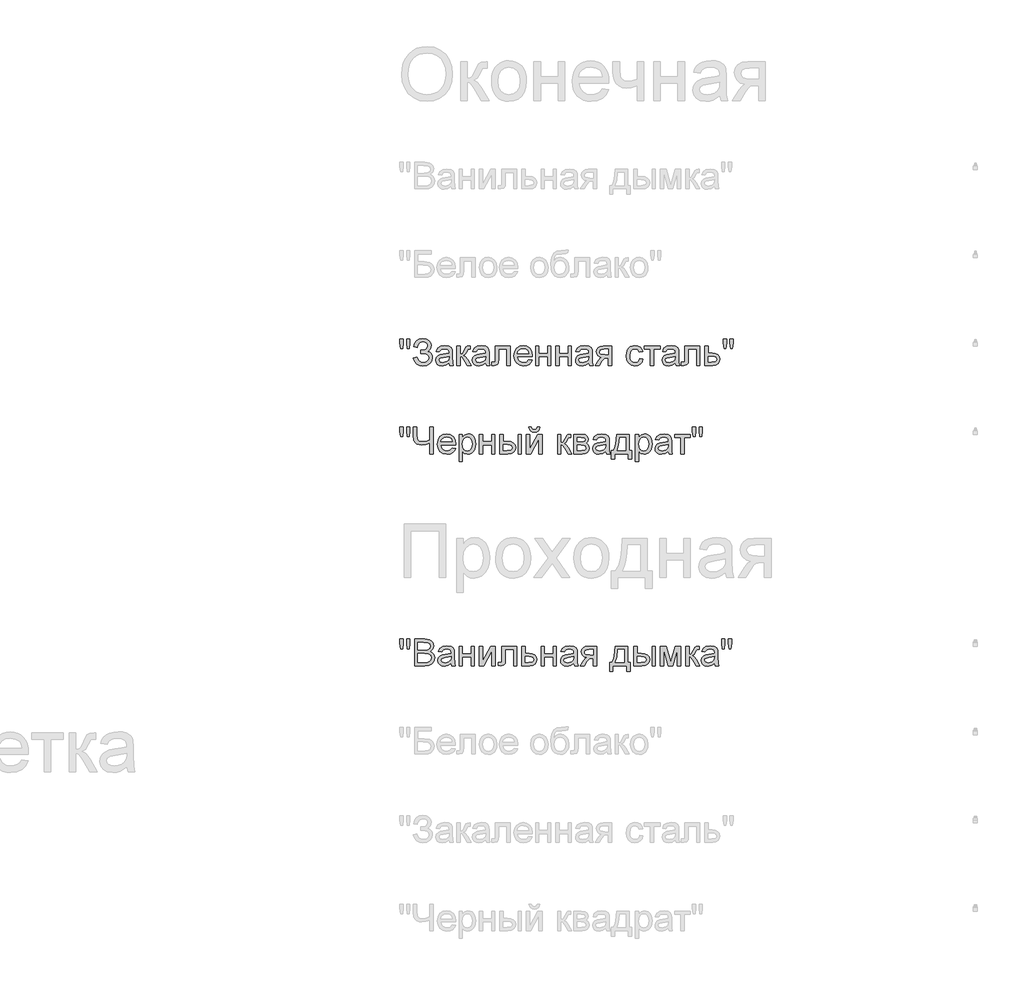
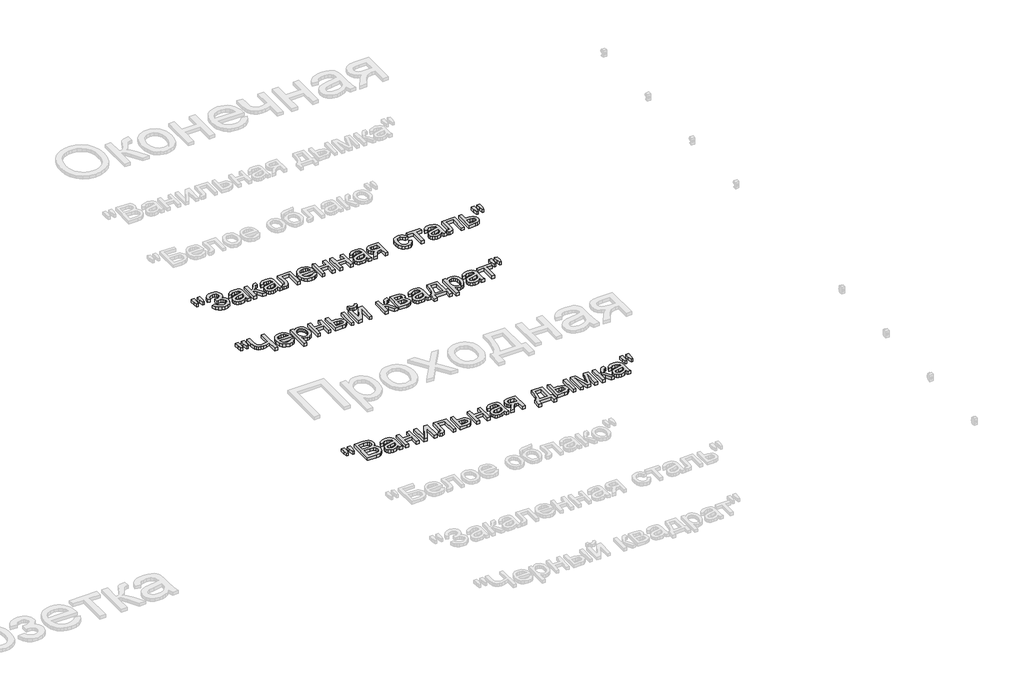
# One storey, part 24 of 168: 3 proxies.
"""IFC4 building model written with IfcOpenShell, lengths in millimetres."""

from ifc_helpers import new_model, si_unit, origin, origin_with_axes, place, context, project, spatial, polyline, outline, extrude, element, save

model = new_model("IFC4")

# Units and contexts
model_context = context("Model", 3, world=origin())
ifc_project = project(units=[si_unit("LENGTHUNIT", "METRE", prefix="MILLI")], contexts=[model_context])

# Site, building, storey
site = spatial("IfcSite", under=ifc_project)
building = spatial("IfcBuilding", under=site)
storey = spatial("IfcBuildingStorey", under=building, Name="Этаж 01", Elevation=0.0)

# Proxies
placement = place(None, origin())
element("IfcBuildingElementProxy", 1, Name="150", ObjectType="150", at=placement, inside=storey, context=model_context, shape_type="SweptSolid", body=[
    extrude(outline(polyline([(54389.7772739, -52170.3300622), (54385.178749, -52141.2305964), (54385.178749, -52116.1778325), (54404.0143071, -52116.1778325), (54404.0143071, -52141.2305964), (54399.8940288, -52170.3300622), (54389.7772739, -52170.3300622)])), origin_with_axes(), (0.0, 0.0, 1.0), 20.0),
    extrude(outline(polyline([(54427.3380256, -52170.3300622), (54422.8498653, -52141.2305964), (54422.8498653, -52116.1778325), (54441.6854234, -52116.1778325), (54441.6854234, -52141.2305964), (54437.2708395, -52170.3300622), (54427.3380256, -52170.3300622)])), origin_with_axes(), (0.0, 0.0, 1.0), 20.0),
    extrude(outline(polyline([(54460.5209816, -52224.4822919), (54479.3565398, -52219.7734024), (54490.9264285, -52240.172459), (54501.8571223, -52247.829003), (54515.8504337, -52250.3811843), (54530.0276861, -52248.4635995), (54540.8480152, -52242.7108448), (54547.7044159, -52234.2449603), (54549.9898828, -52224.1879863), (54547.4928838, -52213.6527657), (54540.0018867, -52205.517975), (54528.2066702, -52200.3170433), (54512.7970131, -52198.5833994), (54502.9009874, -52198.5833994), (54502.9009874, -52179.7478413), (54524.2197491, -52178.221131), (54537.2611658, -52170.4220327), (54542.9265485, -52156.1666054), (54541.0411533, -52147.2960508), (54535.3849676, -52139.6670979), (54526.5098145, -52134.4109839), (54514.9675169, -52132.6589459), (54495.7456826, -52138.0484171), (54484.746011, -52152.3406326), (54481.7109845, -52165.6211727), (54462.8754264, -52160.9122831), (54468.7270494, -52140.3108914), (54479.3289486, -52125.5956116), (54494.6811241, -52116.7664437), (54514.7835759, -52113.8233877), (54534.1755556, -52116.8814068), (54549.0885719, -52126.0554641), (54558.593723, -52139.3222085), (54561.7621067, -52154.6582892), (54556.8324879, -52173.3007093), (54542.0436317, -52187.2158458), (54552.5190715, -52192.0396984), (54561.1367073, -52200.1836861), (54566.9032576, -52210.948833), (54568.825441, -52223.6361633), (54565.137424, -52241.4738415), (54554.073373, -52256.1385376), (54536.9208749, -52265.9471913), (54514.9675169, -52269.2167425), (54495.8652443, -52266.4208393), (54480.4233975, -52258.0331298), (54468.6419766, -52244.053614), (54460.5209816, -52224.4822919)])), origin_with_axes(), (0.0, 0.0, 1.0), 20.0),
    extrude(outline(polyline([(54663.0032317, -52252.7356291), (54644.7378907, -52265.5011344), (54624.5595633, -52269.2167425), (54608.8188124, -52266.9818594), (54597.2075369, -52260.27721), (54590.0476336, -52250.0960758), (54587.6609991, -52237.4317381), (54591.2662427, -52222.5325173), (54600.7392041, -52211.7167867), (54613.9277736, -52205.5363691), (54630.224946, -52202.7036778), (54662.8928671, -52196.2289547), (54663.0032317, -52192.0350999), (54661.7064477, -52183.6289963), (54657.8160956, -52178.1291605), (54649.1156864, -52174.0456704), (54636.9939747, -52172.684507), (54617.9376873, -52176.3081446), (54608.8510021, -52189.1656204), (54590.0154439, -52186.8111756), (54598.1640301, -52168.4170758), (54614.5715671, -52157.6381334), (54639.4219959, -52153.8489488), (54662.2490737, -52157.196675), (54675.1433376, -52165.6027786), (54680.9190849, -52178.3866779), (54681.8387899, -52194.8677913), (54681.8387899, -52218.3018744), (54682.7952831, -52251.0249778), (54686.5476794, -52266.8622977), (54667.7121213, -52266.8622977), (54663.0032317, -52252.7356291)]), holes=[polyline([(54663.0032317, -52215.0645128), (54632.6161789, -52220.8402601), (54616.4109771, -52223.8936807), (54609.0717313, -52228.8600876), (54606.4965573, -52236.1073629), (54612.1067577, -52246.2976942), (54628.569477, -52250.3811843), (54647.6257643, -52245.8746299), (54659.913023, -52234.9669288), (54662.8928671, -52220.3988017), (54663.0032317, -52215.0645128)])]), origin_with_axes(), (0.0, 0.0, 1.0), 20.0),
    extrude(outline(polyline([(54707.7376824, -52156.2033936), (54726.5732405, -52156.2033936), (54726.5732405, -52203.292289), (54739.1915929, -52199.9077746), (54749.529077, -52180.1892997), (54758.1191216, -52163.1747574), (54765.6974907, -52157.6381334), (54779.4746714, -52156.2033936), (54783.079915, -52156.2033936), (54783.079915, -52175.1493163), (54778.0031434, -52175.0389517), (54768.8060936, -52177.0255145), (54762.3313704, -52189.4231377), (54754.7346072, -52202.8324365), (54744.0844235, -52209.3991301), (54755.9670119, -52216.7291788), (54767.6288712, -52232.1710256), (54787.7888045, -52266.8622977), (54766.3780724, -52266.8622977), (54746.6228092, -52232.9067896), (54736.6899954, -52218.5409977), (54726.5732405, -52215.0645128), (54726.5732405, -52266.8622977), (54707.7376824, -52266.8622977), (54707.7376824, -52156.2033936)])), origin_with_axes(), (0.0, 0.0, 1.0), 20.0),
    extrude(outline(polyline([(54870.1943714, -52252.7356291), (54851.9290304, -52265.5011344), (54831.7507029, -52269.2167425), (54816.0099521, -52266.9818594), (54804.3986766, -52260.27721), (54797.2387733, -52250.0960758), (54794.8521388, -52237.4317381), (54798.4573824, -52222.5325173), (54807.9303437, -52211.7167867), (54821.1189133, -52205.5363691), (54837.4160857, -52202.7036778), (54870.0840068, -52196.2289547), (54870.1943714, -52192.0350999), (54868.8975874, -52183.6289963), (54865.0072353, -52178.1291605), (54856.3068261, -52174.0456704), (54844.1851144, -52172.684507), (54825.128827, -52176.3081446), (54816.0421417, -52189.1656204), (54797.2065836, -52186.8111756), (54805.3551698, -52168.4170758), (54821.7627068, -52157.6381334), (54846.6131355, -52153.8489488), (54869.4402133, -52157.196675), (54882.3344773, -52165.6027786), (54888.1102246, -52178.3866779), (54889.0299296, -52194.8677913), (54889.0299296, -52218.3018744), (54889.9864228, -52251.0249778), (54893.7388191, -52266.8622977), (54874.903261, -52266.8622977), (54870.1943714, -52252.7356291)]), holes=[polyline([(54870.1943714, -52215.0645128), (54839.8073186, -52220.8402601), (54823.6021167, -52223.8936807), (54816.2628709, -52228.8600876), (54813.687697, -52236.1073629), (54819.2978974, -52246.2976942), (54835.7606167, -52250.3811843), (54854.816904, -52245.8746299), (54867.1041627, -52234.9669288), (54870.0840068, -52220.3988017), (54870.1943714, -52215.0645128)])]), origin_with_axes(), (0.0, 0.0, 1.0), 20.0),
    extrude(outline(polyline([(54924.3466011, -52156.2033936), (55009.1066128, -52156.2033936), (55009.1066128, -52266.7519331), (54990.2710547, -52266.7519331), (54990.2710547, -52175.0389517), (54943.1821593, -52175.0389517), (54943.1821593, -52227.830018), (54941.9129664, -52252.1838061), (54934.9416026, -52262.4661079), (54918.4604892, -52266.8622977), (54903.1565982, -52265.9058045), (54903.1565982, -52248.0267396), (54911.5810959, -52248.0267396), (54920.0975641, -52246.8679113), (54923.5004725, -52243.1890913), (54924.3466011, -52226.7631603), (54924.3466011, -52156.2033936)])), origin_with_axes(), (0.0, 0.0, 1.0), 20.0),
    extrude(outline(polyline([(55114.8358982, -52233.900071), (55133.3035744, -52236.2545157), (55126.6495088, -52250.1696522), (55116.0315147, -52260.5715156), (55101.6887154, -52267.0554358), (55083.8602342, -52269.2167425), (55061.7597234, -52265.4873388), (55044.7543781, -52254.2991276), (55033.9110563, -52236.3786759), (55030.2966157, -52212.4525506), (55033.9478445, -52187.7216835), (55044.9015309, -52169.2264162), (55061.6769499, -52157.6933157), (55082.7933764, -52153.8489488), (55103.2522139, -52157.6841186), (55119.5999701, -52169.189628), (55130.3191317, -52187.6481071), (55133.8921856, -52212.342186), (55133.781821, -52217.4189576), (55049.1321739, -52217.4189576), (55052.3925281, -52231.518035), (55059.9662986, -52241.8831103), (55070.8969924, -52248.2566658), (55084.2281162, -52250.3811843), (55102.6957924, -52246.444847), (55114.8358982, -52233.900071)]), holes=[polyline([(55049.1321739, -52198.5833994), (55115.0566274, -52198.5833994), (55112.5090446, -52188.6321915), (55107.5150465, -52181.5136749), (55096.533769, -52174.8917989), (55082.7198, -52172.684507), (55070.0232727, -52174.445742), (55059.5248402, -52179.7294472), (55052.2269812, -52187.9654053), (55049.1321739, -52198.5833994)])]), origin_with_axes(), (0.0, 0.0, 1.0), 20.0),
    extrude(outline(polyline([(55152.7277437, -52156.2033936), (55171.5633019, -52156.2033936), (55171.5633019, -52198.5833994), (55221.006642, -52198.5833994), (55221.006642, -52156.2033936), (55239.8422002, -52156.2033936), (55239.8422002, -52266.8622977), (55221.006642, -52266.8622977), (55221.006642, -52217.4189576), (55171.5633019, -52217.4189576), (55171.5633019, -52266.8622977), (55152.7277437, -52266.8622977), (55152.7277437, -52156.2033936)])), origin_with_axes(), (0.0, 0.0, 1.0), 20.0),
    extrude(outline(polyline([(55268.0955374, -52156.2033936), (55286.9310956, -52156.2033936), (55286.9310956, -52198.5833994), (55336.3744357, -52198.5833994), (55336.3744357, -52156.2033936), (55355.2099939, -52156.2033936), (55355.2099939, -52266.8622977), (55336.3744357, -52266.8622977), (55336.3744357, -52217.4189576), (55286.9310956, -52217.4189576), (55286.9310956, -52266.8622977), (55268.0955374, -52266.8622977), (55268.0955374, -52156.2033936)])), origin_with_axes(), (0.0, 0.0, 1.0), 20.0),
    extrude(outline(polyline([(55454.0966742, -52252.7356291), (55435.8313331, -52265.5011344), (55415.6530057, -52269.2167425), (55399.9122548, -52266.9818594), (55388.3009793, -52260.27721), (55381.141076, -52250.0960758), (55378.7544416, -52237.4317381), (55382.3596851, -52222.5325173), (55391.8326465, -52211.7167867), (55405.021216, -52205.5363691), (55421.3183884, -52202.7036778), (55453.9863096, -52196.2289547), (55454.0966742, -52192.0350999), (55452.7998901, -52183.6289963), (55448.909538, -52178.1291605), (55440.2091289, -52174.0456704), (55428.0874171, -52172.684507), (55409.0311298, -52176.3081446), (55399.9444445, -52189.1656204), (55381.1088863, -52186.8111756), (55389.2574725, -52168.4170758), (55405.6650095, -52157.6381334), (55430.5154383, -52153.8489488), (55453.3425161, -52157.196675), (55466.23678, -52165.6027786), (55472.0125273, -52178.3866779), (55472.9322323, -52194.8677913), (55472.9322323, -52218.3018744), (55473.8887255, -52251.0249778), (55477.6411219, -52266.8622977), (55458.8055637, -52266.8622977), (55454.0966742, -52252.7356291)]), holes=[polyline([(55454.0966742, -52215.0645128), (55423.7096214, -52220.8402601), (55407.5044195, -52223.8936807), (55400.1651737, -52228.8600876), (55397.5899997, -52236.1073629), (55403.2002001, -52246.2976942), (55419.6629194, -52250.3811843), (55438.7192068, -52245.8746299), (55451.0064654, -52234.9669288), (55453.9863096, -52220.3988017), (55454.0966742, -52215.0645128)])]), origin_with_axes(), (0.0, 0.0, 1.0), 20.0),
    extrude(outline(polyline([(55583.5911365, -52156.2033936), (55583.5911365, -52266.8622977), (55564.7555783, -52266.8622977), (55564.7555783, -52224.4822919), (55554.4916707, -52224.4822919), (55540.5121548, -52226.8735249), (55527.3787676, -52242.949968), (55512.3691822, -52266.8622977), (55490.5905681, -52266.8622977), (55509.4997026, -52236.6223977), (55517.8506239, -52225.7698789), (55525.5393576, -52220.9506247), (55512.6634878, -52217.0050903), (55503.6135907, -52209.5094947), (55498.2609077, -52199.5398926), (55496.47668, -52188.172339), (55498.9138982, -52175.278075), (55506.2255529, -52165.0693497), (55518.1541266, -52158.4198826), (55534.4421019, -52156.2033936), (55583.5911365, -52156.2033936)]), holes=[polyline([(55564.7555783, -52175.0389517), (55539.9235436, -52175.0389517), (55527.0982576, -52176.1288021), (55519.8187926, -52179.3983534), (55515.3122382, -52189.6070787), (55516.9723057, -52196.7853762), (55521.9525082, -52201.7655787), (55545.4785618, -52205.6467337), (55564.7555783, -52205.6467337), (55564.7555783, -52175.0389517)])]), origin_with_axes(), (0.0, 0.0, 1.0), 20.0),
    extrude(outline(polyline([(55741.338936, -52226.8367367), (55760.1744942, -52229.1911814), (55754.9229787, -52245.9436078), (55745.0545442, -52258.6033469), (55731.4980926, -52266.5633936), (55715.1825262, -52269.2167425), (55695.146753, -52265.5149299), (55679.4795785, -52254.4094922), (55669.3674222, -52236.387873), (55665.9967034, -52211.9375159), (55667.4360417, -52195.1758924), (55671.7540566, -52180.6491522), (55679.019726, -52168.918315), (55689.3020278, -52160.5444011), (55701.603082, -52155.5228119), (55714.9250088, -52153.8489488), (55730.8405036, -52156.1482113), (55743.5646221, -52163.0459987), (55752.6926941, -52174.174429), (55757.8200494, -52189.1656204), (55738.9844912, -52191.5200651), (55730.2472939, -52177.4117906), (55715.0721616, -52172.684507), (55702.899866, -52175.0113606), (55693.2383651, -52181.9919214), (55686.9337874, -52194.0032686), (55684.8322615, -52211.4224811), (55686.8878022, -52229.0762183), (55693.0544241, -52241.1289522), (55702.5411811, -52248.0681263), (55714.5571268, -52250.3811843), (55724.3105982, -52248.9372475), (55732.307433, -52244.605437), (55738.1245671, -52237.2753883), (55741.338936, -52226.8367367)])), origin_with_axes(), (0.0, 0.0, 1.0), 20.0),
    extrude(outline(polyline([(55767.2378285, -52156.2033936), (55856.7067297, -52156.2033936), (55856.7067297, -52175.0389517), (55821.3900582, -52175.0389517), (55821.3900582, -52266.8622977), (55802.5545, -52266.8622977), (55802.5545, -52175.0389517), (55767.2378285, -52175.0389517), (55767.2378285, -52156.2033936)])), origin_with_axes(), (0.0, 0.0, 1.0), 20.0),
    extrude(outline(polyline([(55943.8211862, -52252.7356291), (55925.5558451, -52265.5011344), (55905.3775177, -52269.2167425), (55889.6367668, -52266.9818594), (55878.0254913, -52260.27721), (55870.865588, -52250.0960758), (55868.4789535, -52237.4317381), (55872.0841971, -52222.5325173), (55881.5571585, -52211.7167867), (55894.745728, -52205.5363691), (55911.0429004, -52202.7036778), (55943.7108216, -52196.2289547), (55943.8211862, -52192.0350999), (55942.5244021, -52183.6289963), (55938.63405, -52178.1291605), (55929.9336408, -52174.0456704), (55917.8119291, -52172.684507), (55898.7556417, -52176.3081446), (55889.6689565, -52189.1656204), (55870.8333983, -52186.8111756), (55878.9819845, -52168.4170758), (55895.3895215, -52157.6381334), (55920.2399503, -52153.8489488), (55943.0670281, -52157.196675), (55955.961292, -52165.6027786), (55961.7370393, -52178.3866779), (55962.6567443, -52194.8677913), (55962.6567443, -52218.3018744), (55963.6132375, -52251.0249778), (55967.3656338, -52266.8622977), (55948.5300757, -52266.8622977), (55943.8211862, -52252.7356291)]), holes=[polyline([(55943.8211862, -52215.0645128), (55913.4341334, -52220.8402601), (55897.2289315, -52223.8936807), (55889.8896857, -52228.8600876), (55887.3145117, -52236.1073629), (55892.9247121, -52246.2976942), (55909.3874314, -52250.3811843), (55928.4437188, -52245.8746299), (55940.7309774, -52234.9669288), (55943.7108216, -52220.3988017), (55943.8211862, -52215.0645128)])]), origin_with_axes(), (0.0, 0.0, 1.0), 20.0),
    extrude(outline(polyline([(55997.9734158, -52156.2033936), (56082.7334275, -52156.2033936), (56082.7334275, -52266.7519331), (56063.8978694, -52266.7519331), (56063.8978694, -52175.0389517), (56016.808974, -52175.0389517), (56016.808974, -52227.830018), (56015.5397811, -52252.1838061), (56008.5684173, -52262.4661079), (55992.0873039, -52266.8622977), (55976.7834129, -52265.9058045), (55976.7834129, -52248.0267396), (55985.2079106, -52248.0267396), (55993.7243788, -52246.8679113), (55997.1272873, -52243.1890913), (55997.9734158, -52226.7631603), (55997.9734158, -52156.2033936)])), origin_with_axes(), (0.0, 0.0, 1.0), 20.0),
    extrude(outline(polyline([(56110.9867648, -52156.2033936), (56129.8223229, -52156.2033936), (56129.8223229, -52196.2289547), (56151.5273606, -52196.2289547), (56170.3445247, -52198.587998), (56184.2688582, -52205.6651278), (56192.8772969, -52216.8901272), (56195.7467765, -52231.692779), (56193.3049597, -52245.1710556), (56185.9795095, -52256.5432078), (56173.2829821, -52264.2825252), (56154.727934, -52266.8622977), (56110.9867648, -52266.8622977), (56110.9867648, -52156.2033936)]), holes=[polyline([(56129.8223229, -52248.0267396), (56147.4070823, -52248.0267396), (56170.1237955, -52244.0720081), (56175.2143626, -52239.0090322), (56176.9112183, -52231.7295672), (56171.8896291, -52220.1412843), (56163.8192178, -52216.3337057), (56149.6511625, -52215.0645128), (56129.8223229, -52215.0645128), (56129.8223229, -52248.0267396)])]), origin_with_axes(), (0.0, 0.0, 1.0), 20.0),
    extrude(outline(polyline([(56219.1808595, -52170.3300622), (56214.5823346, -52141.2305964), (56214.5823346, -52116.1778325), (56233.4178928, -52116.1778325), (56233.4178928, -52141.2305964), (56229.2976144, -52170.3300622), (56219.1808595, -52170.3300622)])), origin_with_axes(), (0.0, 0.0, 1.0), 20.0),
    extrude(outline(polyline([(56256.7416113, -52170.3300622), (56252.2534509, -52141.2305964), (56252.2534509, -52116.1778325), (56271.0890091, -52116.1778325), (56271.0890091, -52141.2305964), (56266.6744251, -52170.3300622), (56256.7416113, -52170.3300622)])), origin_with_axes(), (0.0, 0.0, 1.0), 20.0),
])
element("IfcBuildingElementProxy", 2, Name="150", ObjectType="150", at=placement, inside=storey, context=model_context, shape_type="SweptSolid", body=[
    extrude(outline(polyline([(54389.7772739, -52670.3300622), (54385.178749, -52641.2305964), (54385.178749, -52616.1778325), (54404.0143071, -52616.1778325), (54404.0143071, -52641.2305964), (54399.8940288, -52670.3300622), (54389.7772739, -52670.3300622)])), origin_with_axes(), (0.0, 0.0, 1.0), 20.0),
    extrude(outline(polyline([(54427.3380256, -52670.3300622), (54422.8498653, -52641.2305964), (54422.8498653, -52616.1778325), (54441.6854234, -52616.1778325), (54441.6854234, -52641.2305964), (54437.2708395, -52670.3300622), (54427.3380256, -52670.3300622)])), origin_with_axes(), (0.0, 0.0, 1.0), 20.0),
    extrude(outline(polyline([(54573.5343305, -52766.8622977), (54554.6987724, -52766.8622977), (54554.6987724, -52706.5296505), (54529.7195849, -52714.6966308), (54508.0513354, -52717.4189576), (54493.3682452, -52715.556555), (54480.515368, -52709.9693472), (54470.554963, -52701.5172583), (54464.5492894, -52691.0602126), (54460.5209816, -52661.0594359), (54460.5209816, -52616.1778325), (54479.3565398, -52616.1778325), (54479.3565398, -52658.5210502), (54481.619014, -52678.8879171), (54488.4064368, -52690.8394834), (54498.3668419, -52696.6474204), (54510.1482628, -52698.5833994), (54531.8808916, -52696.2473488), (54554.6987724, -52689.2391968), (54554.6987724, -52616.1778325), (54573.5343305, -52616.1778325), (54573.5343305, -52766.8622977)])), origin_with_axes(), (0.0, 0.0, 1.0), 20.0),
    extrude(outline(polyline([(54681.6180607, -52733.900071), (54700.0857369, -52736.2545157), (54693.4316713, -52750.1696522), (54682.8136772, -52760.5715156), (54668.4708779, -52767.0554358), (54650.6423967, -52769.2167425), (54628.5418858, -52765.4873388), (54611.5365406, -52754.2991276), (54600.6932188, -52736.3786759), (54597.0787782, -52712.4525506), (54600.730007, -52687.7216835), (54611.6836934, -52669.2264162), (54628.4591124, -52657.6933157), (54649.5755389, -52653.8489488), (54670.0343764, -52657.6841186), (54686.3821325, -52669.189628), (54697.1012942, -52687.6481071), (54700.6743481, -52712.342186), (54700.5639835, -52717.4189576), (54615.9143364, -52717.4189576), (54619.1746905, -52731.518035), (54626.7484611, -52741.8831103), (54637.6791549, -52748.2566658), (54651.0102787, -52750.3811843), (54669.4779549, -52746.444847), (54681.6180607, -52733.900071)]), holes=[polyline([(54615.9143364, -52698.5833994), (54681.8387899, -52698.5833994), (54679.2912071, -52688.6321915), (54674.297209, -52681.5136749), (54663.3159314, -52674.8917989), (54649.5019625, -52672.684507), (54636.8054352, -52674.445742), (54626.3070027, -52679.7294472), (54619.0091436, -52687.9654053), (54615.9143364, -52698.5833994)])]), origin_with_axes(), (0.0, 0.0, 1.0), 20.0),
    extrude(outline(polyline([(54719.5099062, -52809.2423036), (54719.5099062, -52656.2033936), (54738.3454644, -52656.2033936), (54738.3454644, -52674.6710697), (54751.368487, -52659.054479), (54768.9532464, -52653.8489488), (54781.6911604, -52655.6699647), (54792.8287878, -52661.1330123), (54801.897079, -52669.9069979), (54808.4269844, -52681.6608277), (54813.687697, -52710.6867171), (54812.2023734, -52726.7953499), (54807.7464027, -52741.2025286), (54800.4623392, -52753.1770875), (54790.4927372, -52761.9878613), (54778.8814617, -52767.4095222), (54766.672378, -52769.2167425), (54750.2832351, -52764.3790943), (54738.3454644, -52752.1470179), (54738.3454644, -52809.2423036), (54719.5099062, -52809.2423036)]), holes=[polyline([(54738.3454644, -52712.4157624), (54740.3826109, -52729.301546), (54746.4940506, -52741.1105581), (54755.511758, -52748.0635278), (54766.2677078, -52750.3811843), (54777.1984016, -52747.9807543), (54786.4460352, -52740.7794643), (54792.7506129, -52728.5381909), (54794.8521388, -52711.0178109), (54792.8011967, -52694.2239978), (54786.6483703, -52682.2494388), (54777.6444585, -52675.0757399), (54767.04026, -52672.684507), (54756.3946747, -52675.2274913), (54747.0458735, -52682.8564441), (54740.5205667, -52695.3322423), (54738.3454644, -52712.4157624)])]), origin_with_axes(), (0.0, 0.0, 1.0), 20.0),
    extrude(outline(polyline([(54834.8776999, -52656.2033936), (54853.713258, -52656.2033936), (54853.713258, -52698.5833994), (54903.1565982, -52698.5833994), (54903.1565982, -52656.2033936), (54921.9921564, -52656.2033936), (54921.9921564, -52766.8622977), (54903.1565982, -52766.8622977), (54903.1565982, -52717.4189576), (54853.713258, -52717.4189576), (54853.713258, -52766.8622977), (54834.8776999, -52766.8622977), (54834.8776999, -52656.2033936)])), origin_with_axes(), (0.0, 0.0, 1.0), 20.0),
    extrude(outline(polyline([(55053.8410634, -52656.2033936), (55072.6766216, -52656.2033936), (55072.6766216, -52766.8622977), (55053.8410634, -52766.8622977), (55053.8410634, -52656.2033936)])), origin_with_axes(), (0.0, 0.0, 1.0), 20.0),
    extrude(outline(polyline([(54950.2454936, -52656.2033936), (54969.0810517, -52656.2033936), (54969.0810517, -52696.2289547), (54992.367982, -52696.2289547), (55012.4957257, -52698.587998), (55027.4087421, -52705.6651278), (55036.6379816, -52716.8901272), (55039.7143948, -52731.692779), (55037.1346223, -52745.1710556), (55029.3953048, -52756.5432078), (55015.9906046, -52764.2825252), (54996.414684, -52766.8622977), (54950.2454936, -52766.8622977), (54950.2454936, -52656.2033936)]), holes=[polyline([(54969.0810517, -52748.0267396), (54988.4316447, -52748.0267396), (55013.4108322, -52744.0720081), (55019.0118355, -52739.0090322), (55020.8788367, -52731.7295672), (55015.3422126, -52720.1412843), (55006.462461, -52716.3337057), (54990.896454, -52715.0645128), (54969.0810517, -52715.0645128), (54969.0810517, -52748.0267396)])]), origin_with_axes(), (0.0, 0.0, 1.0), 20.0),
    extrude(outline(polyline([(55100.9299588, -52656.2033936), (55119.765517, -52656.2033936), (55119.765517, -52740.5955233), (55166.045072, -52656.2033936), (55190.39886, -52656.2033936), (55190.39886, -52766.8622977), (55171.5633019, -52766.8622977), (55171.5633019, -52682.9852028), (55125.5780525, -52766.8622977), (55100.9299588, -52766.8622977), (55100.9299588, -52656.2033936)])), origin_with_axes(), (0.0, 0.0, 1.0), 20.0),
    extrude(outline(polyline([(55162.1455228, -52616.1778325), (55176.2721914, -52616.1778325), (55173.2325664, -52628.2397634), (55167.1303238, -52637.1287121), (55158.2413751, -52642.6055553), (55146.8416318, -52644.4311697), (55134.4715997, -52642.6193509), (55124.8790767, -52637.1838944), (55118.3215801, -52628.3087413), (55115.0566274, -52616.1778325), (55129.183296, -52616.1778325), (55134.4807968, -52626.7912281), (55145.1493746, -52630.3045011), (55156.8480221, -52626.9015927), (55162.1455228, -52616.1778325)])), origin_with_axes(), (0.0, 0.0, 1.0), 20.0),
    extrude(outline(polyline([(55277.5133165, -52656.2033936), (55296.3488746, -52656.2033936), (55296.3488746, -52703.292289), (55308.9672271, -52699.9077746), (55319.3047111, -52680.1892997), (55327.8947557, -52663.1747574), (55335.4731248, -52657.6381334), (55349.2503055, -52656.2033936), (55352.8555491, -52656.2033936), (55352.8555491, -52675.1493163), (55347.7787776, -52675.0389517), (55338.5817277, -52677.0255145), (55332.1070046, -52689.4231377), (55324.5102414, -52702.8324365), (55313.8600576, -52709.3991301), (55325.7426461, -52716.7291788), (55337.4045053, -52732.1710256), (55357.5644386, -52766.8622977), (55336.1537065, -52766.8622977), (55316.3984434, -52732.9067896), (55306.4656295, -52718.5409977), (55296.3488746, -52715.0645128), (55296.3488746, -52766.8622977), (55277.5133165, -52766.8622977), (55277.5133165, -52656.2033936)])), origin_with_axes(), (0.0, 0.0, 1.0), 20.0),
    extrude(outline(polyline([(55369.3366625, -52656.2033936), (55410.8337515, -52656.2033936), (55433.5872529, -52658.7233853), (55446.3895464, -52667.9572233), (55451.7422294, -52684.0520606), (55448.5048678, -52697.1302655), (55438.755995, -52706.4560741), (55451.4111356, -52716.6647995), (55456.4511189, -52734.4151058), (55453.2597426, -52748.7717006), (55445.6721765, -52758.8792584), (55433.6608293, -52764.8665379), (55417.1981101, -52766.8622977), (55369.3366625, -52766.8622977), (55369.3366625, -52656.2033936)]), holes=[polyline([(55388.1722206, -52698.5833994), (55406.7870496, -52698.5833994), (55422.1461229, -52697.6269062), (55429.6141274, -52693.8009335), (55432.9066713, -52686.884752), (55431.4627344, -52681.2653545), (55427.1309239, -52677.6509139), (55407.3756608, -52675.0389517), (55388.1722206, -52675.0389517), (55388.1722206, -52698.5833994)]), polyline([(55388.1722206, -52748.0267396), (55411.2752099, -52748.0267396), (55431.7662371, -52744.6238311), (55436.0060771, -52739.9839195), (55437.6155608, -52732.8700014), (55434.3965933, -52723.8017102), (55426.0088838, -52718.5226036), (55409.4358, -52717.4189576), (55388.1722206, -52717.4189576), (55388.1722206, -52748.0267396)])]), origin_with_axes(), (0.0, 0.0, 1.0), 20.0),
    extrude(outline(polyline([(55550.6289097, -52752.7356291), (55532.3635686, -52765.5011344), (55512.1852412, -52769.2167425), (55496.4444903, -52766.9818594), (55484.8332149, -52760.27721), (55477.6733115, -52750.0960758), (55475.2866771, -52737.4317381), (55478.8919206, -52722.5325173), (55488.364882, -52711.7167867), (55501.5534516, -52705.5363691), (55517.8506239, -52702.7036778), (55550.5185451, -52696.2289547), (55550.6289097, -52692.0350999), (55549.3321257, -52683.6289963), (55545.4417736, -52678.1291605), (55536.7413644, -52674.0456704), (55524.6196526, -52672.684507), (55505.5633653, -52676.3081446), (55496.47668, -52689.1656204), (55477.6411219, -52686.8111756), (55485.7897081, -52668.4170758), (55502.197245, -52657.6381334), (55527.0476738, -52653.8489488), (55549.8747516, -52657.196675), (55562.7690155, -52665.6027786), (55568.5447629, -52678.3866779), (55569.4644679, -52694.8677913), (55569.4644679, -52718.3018744), (55570.420961, -52751.0249778), (55574.1733574, -52766.8622977), (55555.3377992, -52766.8622977), (55550.6289097, -52752.7356291)]), holes=[polyline([(55550.6289097, -52715.0645128), (55520.2418569, -52720.8402601), (55504.036655, -52723.8936807), (55496.6974092, -52728.8600876), (55494.1222352, -52736.1073629), (55499.7324357, -52746.2976942), (55516.195155, -52750.3811843), (55535.2514423, -52745.8746299), (55547.5387009, -52734.9669288), (55550.5185451, -52720.3988017), (55550.6289097, -52715.0645128)])]), origin_with_axes(), (0.0, 0.0, 1.0), 20.0),
    extrude(outline(polyline([(55611.8444737, -52656.2033936), (55682.4778168, -52656.2033936), (55682.4778168, -52748.0267396), (55696.6044854, -52748.0267396), (55696.6044854, -52797.4700797), (55677.7689272, -52797.4700797), (55677.7689272, -52766.8622977), (55600.0722499, -52766.8622977), (55600.0722499, -52797.4700797), (55581.2366917, -52797.4700797), (55581.2366917, -52748.0267396), (55593.0089156, -52748.0267396), (55601.5667705, -52732.5619002), (55607.5586485, -52712.1030628), (55611.8444737, -52656.2033936)]), holes=[polyline([(55628.3255871, -52675.0389517), (55623.9110031, -52717.9523865), (55614.1989185, -52748.0267396), (55663.6422586, -52748.0267396), (55663.6422586, -52675.0389517), (55628.3255871, -52675.0389517)])]), origin_with_axes(), (0.0, 0.0, 1.0), 20.0),
    extrude(outline(polyline([(55717.7944883, -52809.2423036), (55717.7944883, -52656.2033936), (55736.6300465, -52656.2033936), (55736.6300465, -52674.6710697), (55749.6530691, -52659.054479), (55767.2378285, -52653.8489488), (55779.9757426, -52655.6699647), (55791.11337, -52661.1330123), (55800.1816611, -52669.9069979), (55806.7115666, -52681.6608277), (55811.9722791, -52710.6867171), (55810.4869555, -52726.7953499), (55806.0309849, -52741.2025286), (55798.7469214, -52753.1770875), (55788.7773193, -52761.9878613), (55777.1660438, -52767.4095222), (55764.9569601, -52769.2167425), (55748.5678172, -52764.3790943), (55736.6300465, -52752.1470179), (55736.6300465, -52809.2423036), (55717.7944883, -52809.2423036)]), holes=[polyline([(55736.6300465, -52712.4157624), (55738.667193, -52729.301546), (55744.7786327, -52741.1105581), (55753.7963401, -52748.0635278), (55764.5522899, -52750.3811843), (55775.4829837, -52747.9807543), (55784.7306173, -52740.7794643), (55791.035195, -52728.5381909), (55793.1367209, -52711.0178109), (55791.0857788, -52694.2239978), (55784.9329524, -52682.2494388), (55775.9290406, -52675.0757399), (55765.3248421, -52672.684507), (55754.6792569, -52675.2274913), (55745.3304557, -52682.8564441), (55738.8051488, -52695.3322423), (55736.6300465, -52712.4157624)])]), origin_with_axes(), (0.0, 0.0, 1.0), 20.0),
    extrude(outline(polyline([(55903.7956251, -52752.7356291), (55885.530284, -52765.5011344), (55865.3519566, -52769.2167425), (55849.6112057, -52766.9818594), (55837.9999302, -52760.27721), (55830.8400269, -52750.0960758), (55828.4533925, -52737.4317381), (55832.058636, -52722.5325173), (55841.5315974, -52711.7167867), (55854.7201669, -52705.5363691), (55871.0173393, -52702.7036778), (55903.6852605, -52696.2289547), (55903.7956251, -52692.0350999), (55902.498841, -52683.6289963), (55898.6084889, -52678.1291605), (55889.9080798, -52674.0456704), (55877.786368, -52672.684507), (55858.7300807, -52676.3081446), (55849.6433954, -52689.1656204), (55830.8078372, -52686.8111756), (55838.9564234, -52668.4170758), (55855.3639604, -52657.6381334), (55880.2143892, -52653.8489488), (55903.041467, -52657.196675), (55915.9357309, -52665.6027786), (55921.7114782, -52678.3866779), (55922.6311832, -52694.8677913), (55922.6311832, -52718.3018744), (55923.5876764, -52751.0249778), (55927.3400728, -52766.8622977), (55908.5045146, -52766.8622977), (55903.7956251, -52752.7356291)]), holes=[polyline([(55903.7956251, -52715.0645128), (55873.4085723, -52720.8402601), (55857.2033704, -52723.8936807), (55849.8641246, -52728.8600876), (55847.2889506, -52736.1073629), (55852.899151, -52746.2976942), (55869.3618703, -52750.3811843), (55888.4181577, -52745.8746299), (55900.7054163, -52734.9669288), (55903.6852605, -52720.3988017), (55903.7956251, -52715.0645128)])]), origin_with_axes(), (0.0, 0.0, 1.0), 20.0),
    extrude(outline(polyline([(55939.1122966, -52656.2033936), (56028.5811978, -52656.2033936), (56028.5811978, -52675.0389517), (55993.2645263, -52675.0389517), (55993.2645263, -52766.8622977), (55974.4289682, -52766.8622977), (55974.4289682, -52675.0389517), (55939.1122966, -52675.0389517), (55939.1122966, -52656.2033936)])), origin_with_axes(), (0.0, 0.0, 1.0), 20.0),
    extrude(outline(polyline([(56044.9519466, -52670.3300622), (56040.3534217, -52641.2305964), (56040.3534217, -52616.1778325), (56059.1889798, -52616.1778325), (56059.1889798, -52641.2305964), (56055.0687015, -52670.3300622), (56044.9519466, -52670.3300622)])), origin_with_axes(), (0.0, 0.0, 1.0), 20.0),
    extrude(outline(polyline([(56082.5126983, -52670.3300622), (56078.024538, -52641.2305964), (56078.024538, -52616.1778325), (56096.8600961, -52616.1778325), (56096.8600961, -52641.2305964), (56092.4455122, -52670.3300622), (56082.5126983, -52670.3300622)])), origin_with_axes(), (0.0, 0.0, 1.0), 20.0),
])
element("IfcBuildingElementProxy", 3, Name="150", ObjectType="150", at=placement, inside=storey, context=model_context, shape_type="SweptSolid", body=[
    extrude(outline(polyline([(54389.7772739, -53870.3300622), (54385.178749, -53841.2305964), (54385.178749, -53816.1778325), (54404.0143071, -53816.1778325), (54404.0143071, -53841.2305964), (54399.8940288, -53870.3300622), (54389.7772739, -53870.3300622)])), origin_with_axes(), (0.0, 0.0, 1.0), 20.0),
    extrude(outline(polyline([(54427.3380256, -53870.3300622), (54422.8498653, -53841.2305964), (54422.8498653, -53816.1778325), (54441.6854234, -53816.1778325), (54441.6854234, -53841.2305964), (54437.2708395, -53870.3300622), (54427.3380256, -53870.3300622)])), origin_with_axes(), (0.0, 0.0, 1.0), 20.0),
    extrude(outline(polyline([(54467.5843159, -53966.8622977), (54467.5843159, -53816.1778325), (54525.0842718, -53816.1778325), (54553.2456385, -53820.6108106), (54562.7094028, -53826.2348066), (54569.8739047, -53834.2408385), (54575.8887753, -53853.517855), (54570.8303979, -53871.1210085), (54555.544901, -53884.4567308), (54566.2180773, -53890.030143), (54574.1045476, -53898.509823), (54578.9743855, -53909.3347507), (54580.5976648, -53921.9439061), (54576.1646868, -53942.19581), (54565.1834092, -53956.6167842), (54548.7942663, -53964.2687297), (54524.6428134, -53966.8622977), (54467.5843159, -53966.8622977)]), holes=[polyline([(54486.4198741, -53877.3933965), (54520.8168406, -53877.3933965), (54540.9031975, -53875.7747157), (54552.9881211, -53868.8033519), (54557.0532171, -53856.5344874), (54553.2640326, -53844.2472287), (54542.4115137, -53836.9815593), (54518.2048784, -53835.0133907), (54486.4198741, -53835.0133907), (54486.4198741, -53877.3933965)]), polyline([(54486.4198741, -53948.0267396), (54525.0474836, -53948.0267396), (54539.0269994, -53947.2909756), (54550.8544055, -53943.1890913), (54558.690292, -53934.819776), (54561.7621067, -53922.1278471), (54558.1568631, -53907.4861437), (54546.4766098, -53898.7489463), (54523.2080736, -53896.2289547), (54486.4198741, -53896.2289547), (54486.4198741, -53948.0267396)])]), origin_with_axes(), (0.0, 0.0, 1.0), 20.0),
    extrude(outline(polyline([(54674.7754556, -53952.7356291), (54656.5101145, -53965.5011344), (54636.3317871, -53969.2167425), (54620.5910362, -53966.9818594), (54608.9797608, -53960.27721), (54601.8198574, -53950.0960758), (54599.433223, -53937.4317381), (54603.0384665, -53922.5325173), (54612.5114279, -53911.7167867), (54625.6999974, -53905.5363691), (54641.9971698, -53902.7036778), (54674.665091, -53896.2289547), (54674.7754556, -53892.0350999), (54673.4786716, -53883.6289963), (54669.5883195, -53878.1291605), (54660.8879103, -53874.0456704), (54648.7661985, -53872.684507), (54629.7099112, -53876.3081446), (54620.6232259, -53889.1656204), (54601.7876677, -53886.8111756), (54609.9362539, -53868.4170758), (54626.3437909, -53857.6381334), (54651.1942197, -53853.8489488), (54674.0212975, -53857.196675), (54686.9155614, -53865.6027786), (54692.6913088, -53878.3866779), (54693.6110137, -53894.8677913), (54693.6110137, -53918.3018744), (54694.5675069, -53951.0249778), (54698.3199033, -53966.8622977), (54679.4843451, -53966.8622977), (54674.7754556, -53952.7356291)]), holes=[polyline([(54674.7754556, -53915.0645128), (54644.3884028, -53920.8402601), (54628.1832009, -53923.8936807), (54620.8439551, -53928.8600876), (54618.2687811, -53936.1073629), (54623.8789816, -53946.2976942), (54640.3417008, -53950.3811843), (54659.3979882, -53945.8746299), (54671.6852468, -53934.9669288), (54674.665091, -53920.3988017), (54674.7754556, -53915.0645128)])]), origin_with_axes(), (0.0, 0.0, 1.0), 20.0),
    extrude(outline(polyline([(54719.5099062, -53856.2033936), (54738.3454644, -53856.2033936), (54738.3454644, -53898.5833994), (54787.7888045, -53898.5833994), (54787.7888045, -53856.2033936), (54806.6243627, -53856.2033936), (54806.6243627, -53966.8622977), (54787.7888045, -53966.8622977), (54787.7888045, -53917.4189576), (54738.3454644, -53917.4189576), (54738.3454644, -53966.8622977), (54719.5099062, -53966.8622977), (54719.5099062, -53856.2033936)])), origin_with_axes(), (0.0, 0.0, 1.0), 20.0),
    extrude(outline(polyline([(54834.8776999, -53856.2033936), (54853.713258, -53856.2033936), (54853.713258, -53940.5955233), (54899.992813, -53856.2033936), (54924.3466011, -53856.2033936), (54924.3466011, -53966.8622977), (54905.511043, -53966.8622977), (54905.511043, -53882.9852028), (54859.5257936, -53966.8622977), (54834.8776999, -53966.8622977), (54834.8776999, -53856.2033936)])), origin_with_axes(), (0.0, 0.0, 1.0), 20.0),
    extrude(outline(polyline([(54962.0177174, -53856.2033936), (55046.7777291, -53856.2033936), (55046.7777291, -53966.7519331), (55027.942171, -53966.7519331), (55027.942171, -53875.0389517), (54980.8532756, -53875.0389517), (54980.8532756, -53927.830018), (54979.5840827, -53952.1838061), (54972.6127189, -53962.4661079), (54956.1316055, -53966.8622977), (54940.8277145, -53965.9058045), (54940.8277145, -53948.0267396), (54949.2522122, -53948.0267396), (54957.7686804, -53946.8679113), (54961.1715888, -53943.1890913), (54962.0177174, -53926.7631603), (54962.0177174, -53856.2033936)])), origin_with_axes(), (0.0, 0.0, 1.0), 20.0),
    extrude(outline(polyline([(55075.0310663, -53856.2033936), (55093.8666245, -53856.2033936), (55093.8666245, -53896.2289547), (55115.5716622, -53896.2289547), (55134.3888263, -53898.587998), (55148.3131598, -53905.6651278), (55156.9215985, -53916.8901272), (55159.791078, -53931.692779), (55157.3492613, -53945.1710556), (55150.0238111, -53956.5432078), (55137.3272837, -53964.2825252), (55118.7722356, -53966.8622977), (55075.0310663, -53966.8622977), (55075.0310663, -53856.2033936)]), holes=[polyline([(55093.8666245, -53948.0267396), (55111.4513839, -53948.0267396), (55134.1680971, -53944.0720081), (55139.2586642, -53939.0090322), (55140.9555199, -53931.7295672), (55135.9339306, -53920.1412843), (55127.8635194, -53916.3337057), (55113.695464, -53915.0645128), (55093.8666245, -53915.0645128), (55093.8666245, -53948.0267396)])]), origin_with_axes(), (0.0, 0.0, 1.0), 20.0),
    extrude(outline(polyline([(55183.3355257, -53856.2033936), (55202.1710839, -53856.2033936), (55202.1710839, -53898.5833994), (55251.614424, -53898.5833994), (55251.614424, -53856.2033936), (55270.4499822, -53856.2033936), (55270.4499822, -53966.8622977), (55251.614424, -53966.8622977), (55251.614424, -53917.4189576), (55202.1710839, -53917.4189576), (55202.1710839, -53966.8622977), (55183.3355257, -53966.8622977), (55183.3355257, -53856.2033936)])), origin_with_axes(), (0.0, 0.0, 1.0), 20.0),
    extrude(outline(polyline([(55369.3366625, -53952.7356291), (55351.0713214, -53965.5011344), (55330.892994, -53969.2167425), (55315.1522431, -53966.9818594), (55303.5409676, -53960.27721), (55296.3810643, -53950.0960758), (55293.9944299, -53937.4317381), (55297.5996734, -53922.5325173), (55307.0726348, -53911.7167867), (55320.2612043, -53905.5363691), (55336.5583767, -53902.7036778), (55369.2262979, -53896.2289547), (55369.3366625, -53892.0350999), (55368.0398785, -53883.6289963), (55364.1495264, -53878.1291605), (55355.4491172, -53874.0456704), (55343.3274054, -53872.684507), (55324.2711181, -53876.3081446), (55315.1844328, -53889.1656204), (55296.3488746, -53886.8111756), (55304.4974608, -53868.4170758), (55320.9049978, -53857.6381334), (55345.7554266, -53853.8489488), (55368.5825044, -53857.196675), (55381.4767683, -53865.6027786), (55387.2525157, -53878.3866779), (55388.1722206, -53894.8677913), (55388.1722206, -53918.3018744), (55389.1287138, -53951.0249778), (55392.8811102, -53966.8622977), (55374.045552, -53966.8622977), (55369.3366625, -53952.7356291)]), holes=[polyline([(55369.3366625, -53915.0645128), (55338.9496097, -53920.8402601), (55322.7444078, -53923.8936807), (55315.405162, -53928.8600876), (55312.829988, -53936.1073629), (55318.4401885, -53946.2976942), (55334.9029077, -53950.3811843), (55353.9591951, -53945.8746299), (55366.2464537, -53934.9669288), (55369.2262979, -53920.3988017), (55369.3366625, -53915.0645128)])]), origin_with_axes(), (0.0, 0.0, 1.0), 20.0),
    extrude(outline(polyline([(55498.8311248, -53856.2033936), (55498.8311248, -53966.8622977), (55479.9955666, -53966.8622977), (55479.9955666, -53924.4822919), (55469.731659, -53924.4822919), (55455.7521432, -53926.8735249), (55442.6187559, -53942.949968), (55427.6091705, -53966.8622977), (55405.8305564, -53966.8622977), (55424.739691, -53936.6223977), (55433.0906122, -53925.7698789), (55440.7793459, -53920.9506247), (55427.9034761, -53917.0050903), (55418.853579, -53909.5094947), (55413.500896, -53899.5398926), (55411.7166683, -53888.172339), (55414.1538865, -53875.278075), (55421.4655412, -53865.0693497), (55433.3941149, -53858.4198826), (55449.6820902, -53856.2033936), (55498.8311248, -53856.2033936)]), holes=[polyline([(55479.9955666, -53875.0389517), (55455.163532, -53875.0389517), (55442.3382459, -53876.1288021), (55435.0587809, -53879.3983534), (55430.5522265, -53889.6070787), (55432.212294, -53896.7853762), (55437.1924965, -53901.7655787), (55460.7185501, -53905.6467337), (55479.9955666, -53905.6467337), (55479.9955666, -53875.0389517)])]), origin_with_axes(), (0.0, 0.0, 1.0), 20.0),
    extrude(outline(polyline([(55602.4266946, -53856.2033936), (55673.0600377, -53856.2033936), (55673.0600377, -53948.0267396), (55687.1867063, -53948.0267396), (55687.1867063, -53997.4700797), (55668.3511482, -53997.4700797), (55668.3511482, -53966.8622977), (55590.6544708, -53966.8622977), (55590.6544708, -53997.4700797), (55571.8189126, -53997.4700797), (55571.8189126, -53948.0267396), (55583.5911365, -53948.0267396), (55592.1489914, -53932.5619002), (55598.1408694, -53912.1030628), (55602.4266946, -53856.2033936)]), holes=[polyline([(55618.907808, -53875.0389517), (55614.4932241, -53917.9523865), (55604.7811394, -53948.0267396), (55654.2244796, -53948.0267396), (55654.2244796, -53875.0389517), (55618.907808, -53875.0389517)])]), origin_with_axes(), (0.0, 0.0, 1.0), 20.0),
    extrude(outline(polyline([(55811.9722791, -53856.2033936), (55830.8078372, -53856.2033936), (55830.8078372, -53966.8622977), (55811.9722791, -53966.8622977), (55811.9722791, -53856.2033936)])), origin_with_axes(), (0.0, 0.0, 1.0), 20.0),
    extrude(outline(polyline([(55708.3767092, -53856.2033936), (55727.2122674, -53856.2033936), (55727.2122674, -53896.2289547), (55750.4991977, -53896.2289547), (55770.6269413, -53898.587998), (55785.5399577, -53905.6651278), (55794.7691973, -53916.8901272), (55797.8456105, -53931.692779), (55795.265838, -53945.1710556), (55787.5265205, -53956.5432078), (55774.1218203, -53964.2825252), (55754.5458996, -53966.8622977), (55708.3767092, -53966.8622977), (55708.3767092, -53856.2033936)]), holes=[polyline([(55727.2122674, -53948.0267396), (55746.5628603, -53948.0267396), (55771.5420478, -53944.0720081), (55777.1430512, -53939.0090322), (55779.0100523, -53931.7295672), (55773.4734283, -53920.1412843), (55764.5936766, -53916.3337057), (55749.0276697, -53915.0645128), (55727.2122674, -53915.0645128), (55727.2122674, -53948.0267396)])]), origin_with_axes(), (0.0, 0.0, 1.0), 20.0),
    extrude(outline(polyline([(55859.0611745, -53856.2033936), (55891.4715782, -53856.2033936), (55916.4507657, -53944.789378), (55943.3797278, -53856.2033936), (55974.4289682, -53856.2033936), (55974.4289682, -53966.8622977), (55955.59341, -53966.8622977), (55955.59341, -53877.7612785), (55928.5172952, -53966.8622977), (55903.7956251, -53966.8622977), (55877.8967326, -53873.4938474), (55877.8967326, -53966.8622977), (55859.0611745, -53966.8622977), (55859.0611745, -53856.2033936)])), origin_with_axes(), (0.0, 0.0, 1.0), 20.0),
    extrude(outline(polyline([(56002.6823054, -53856.2033936), (56021.5178635, -53856.2033936), (56021.5178635, -53903.292289), (56034.136216, -53899.9077746), (56044.4737, -53880.1892997), (56053.0637446, -53863.1747574), (56060.6421137, -53857.6381334), (56074.4192944, -53856.2033936), (56078.024538, -53856.2033936), (56078.024538, -53875.1493163), (56072.9477665, -53875.0389517), (56063.7507166, -53877.0255145), (56057.2759935, -53889.4231377), (56049.6792303, -53902.8324365), (56039.0290465, -53909.3991301), (56050.9116349, -53916.7291788), (56062.5734942, -53932.1710256), (56082.7334275, -53966.8622977), (56061.3226954, -53966.8622977), (56041.5674323, -53932.9067896), (56031.6346184, -53918.5409977), (56021.5178635, -53915.0645128), (56021.5178635, -53966.8622977), (56002.6823054, -53966.8622977), (56002.6823054, -53856.2033936)])), origin_with_axes(), (0.0, 0.0, 1.0), 20.0),
    extrude(outline(polyline([(56165.1389945, -53952.7356291), (56146.8736534, -53965.5011344), (56126.695326, -53969.2167425), (56110.9545751, -53966.9818594), (56099.3432996, -53960.27721), (56092.1833963, -53950.0960758), (56089.7967618, -53937.4317381), (56093.4020054, -53922.5325173), (56102.8749668, -53911.7167867), (56116.0635363, -53905.5363691), (56132.3607087, -53902.7036778), (56165.0286299, -53896.2289547), (56165.1389945, -53892.0350999), (56163.8422104, -53883.6289963), (56159.9518583, -53878.1291605), (56151.2514491, -53874.0456704), (56139.1297374, -53872.684507), (56120.07345, -53876.3081446), (56110.9867648, -53889.1656204), (56092.1512066, -53886.8111756), (56100.2997928, -53868.4170758), (56116.7073298, -53857.6381334), (56141.5577586, -53853.8489488), (56164.3848364, -53857.196675), (56177.2791003, -53865.6027786), (56183.0548476, -53878.3866779), (56183.9745526, -53894.8677913), (56183.9745526, -53918.3018744), (56184.9310458, -53951.0249778), (56188.6834421, -53966.8622977), (56169.847884, -53966.8622977), (56165.1389945, -53952.7356291)]), holes=[polyline([(56165.1389945, -53915.0645128), (56134.7519417, -53920.8402601), (56118.5467398, -53923.8936807), (56111.207494, -53928.8600876), (56108.63232, -53936.1073629), (56114.2425204, -53946.2976942), (56130.7052397, -53950.3811843), (56149.7615271, -53945.8746299), (56162.0487857, -53934.9669288), (56165.0286299, -53920.3988017), (56165.1389945, -53915.0645128)])]), origin_with_axes(), (0.0, 0.0, 1.0), 20.0),
    extrude(outline(polyline([(56209.7630805, -53870.3300622), (56205.1645555, -53841.2305964), (56205.1645555, -53816.1778325), (56224.0001137, -53816.1778325), (56224.0001137, -53841.2305964), (56219.8798353, -53870.3300622), (56209.7630805, -53870.3300622)])), origin_with_axes(), (0.0, 0.0, 1.0), 20.0),
    extrude(outline(polyline([(56247.3238322, -53870.3300622), (56242.8356718, -53841.2305964), (56242.8356718, -53816.1778325), (56261.67123, -53816.1778325), (56261.67123, -53841.2305964), (56257.256646, -53870.3300622), (56247.3238322, -53870.3300622)])), origin_with_axes(), (0.0, 0.0, 1.0), 20.0),
])

save(model, "model.ifc")
